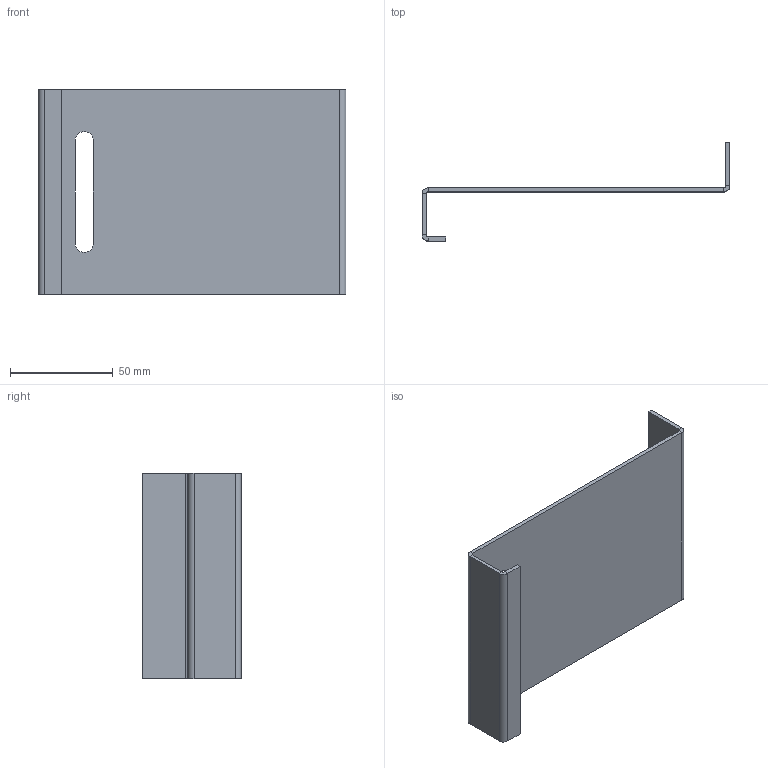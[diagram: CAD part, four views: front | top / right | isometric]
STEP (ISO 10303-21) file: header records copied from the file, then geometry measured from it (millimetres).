
FILE_DESCRIPTION (( 'STEP AP203' ), '1' );
FILE_NAME ('084.106.118.STEP', '2013-01-23T13:05:11', ( 'Alusic' ), ( 'Alusic' ), 'SwSTEP 2.0', 'SolidWorks 2011', '' );
FILE_SCHEMA (( 'CONFIG_CONTROL_DESIGN' ));
Length unit declared in the file: millimetre
Products named in the file (1): 084.106.118
Bounding box: 150 x 48 x 100 mm (x, y, z)
Volume: 39557.7 mm3; surface area: 41026 mm2
Topology: 1 solids, 1 shells, 35 faces, 75 edges, 42 vertices
Faces by surface type: plane 26, cylinder 9
Entity records: 996 total; most frequent: DIRECTION 165, CARTESIAN_POINT 153, ORIENTED_EDGE 150, EDGE_CURVE 75, LINE 57, VECTOR 57, AXIS2_PLACEMENT_3D 54, VERTEX_POINT 42
